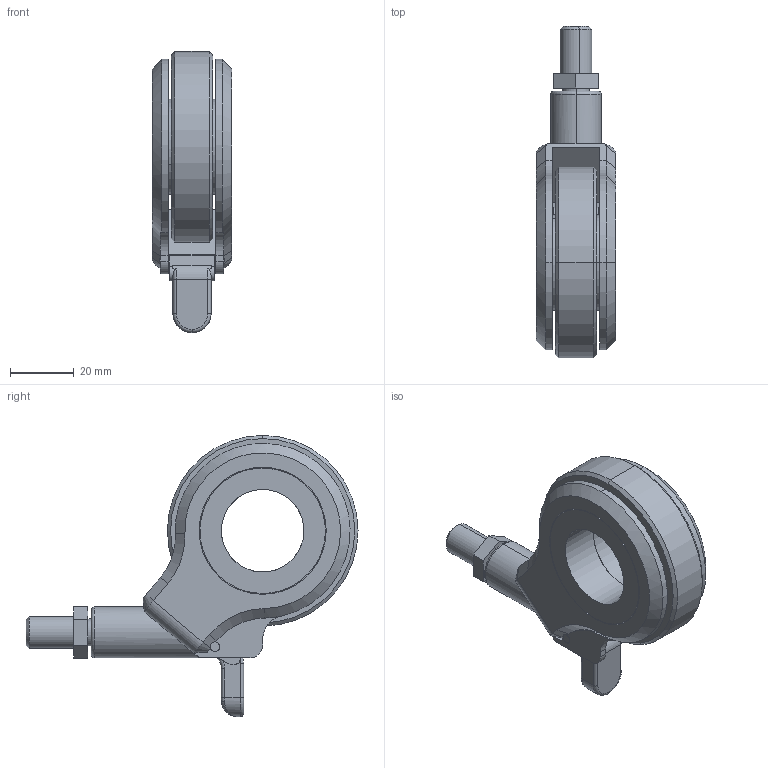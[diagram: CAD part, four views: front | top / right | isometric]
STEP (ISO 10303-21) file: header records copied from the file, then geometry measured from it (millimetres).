
FILE_DESCRIPTION (( 'STEP AP214' ), '1' );
FILE_NAME ('OLYM-60S-M8 M10.STEP', '2020-03-31T11:54:56', ( '' ), ( '' ), 'SwSTEP 2.0', 'SolidWorks 2019', '' );
FILE_SCHEMA (( 'AUTOMOTIVE_DESIGN' ));
Length unit declared in the file: millimetre
Products named in the file (8): nut; OLYM_stopper; OLYM-60S-M8 M10; OLYM-60S-P_partsB; OLYM_stopper pin; bolt; OLYM-60-P_jiku; OLYM-60-P_wheel
Assembly tree (8 placements, depth 2):
  OLYM-60S-M8 M10
    OLYM-60S-P_partsB
    OLYM-60-P_wheel
    OLYM-60-P_jiku  x2
    OLYM_stopper pin
    OLYM_stopper
    nut
    bolt
Bounding box: 25 x 104.5 x 88.5 mm (x, y, z)
Volume: 62375.1 mm3; surface area: 29373.2 mm2
Topology: 8 solids, 8 shells, 157 faces, 375 edges, 234 vertices
Faces by surface type: cylinder 66, plane 62, cone 17, torus 10, bspline 2
Entity records: 4871 total; most frequent: CARTESIAN_POINT 996, DIRECTION 803, ORIENTED_EDGE 710, EDGE_CURVE 355, AXIS2_PLACEMENT_3D 309, VERTEX_POINT 222, LINE 185, VECTOR 185
